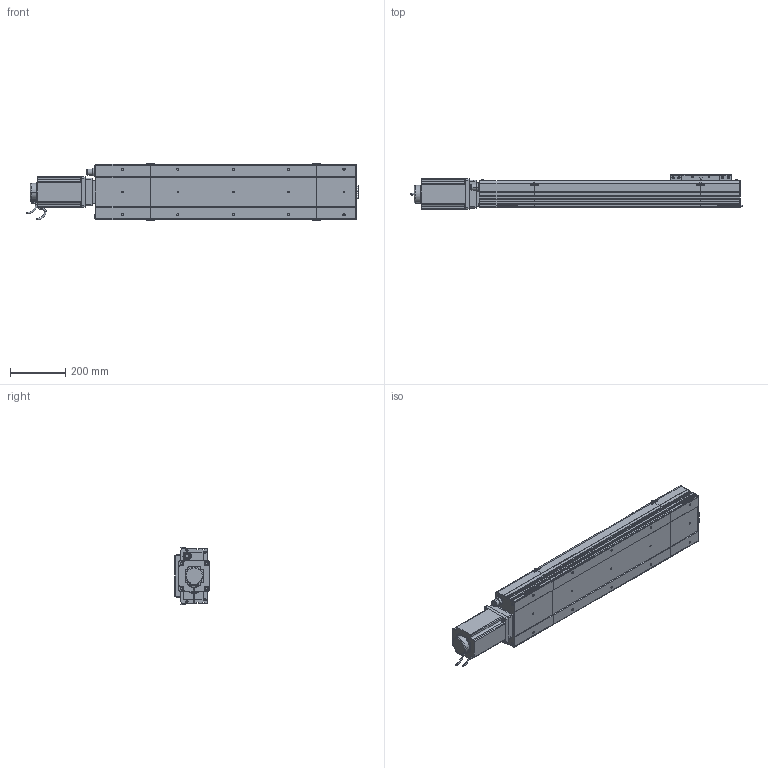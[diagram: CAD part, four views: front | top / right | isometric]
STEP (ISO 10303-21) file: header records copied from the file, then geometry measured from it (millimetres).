
FILE_DESCRIPTION (( 'STEP AP214' ), '1' );
FILE_NAME ('D20 CSH MD S600.STEP', '2010-06-30T08:03:22', ( 'Conseil Régional Haute-Normandie' ), ( 'Conseil Régional Haute-Normandie' ), 'SwSTEP 2.0', 'SolidWorks 2010', '' );
FILE_SCHEMA (( 'AUTOMOTIVE_DESIGN' ));
Length unit declared in the file: millimetre
Products named in the file (28): Corp Head D20_Default; Couvercle Head_Default; Plaque de Bout Head D20_Default; Glissiere_Default; Chariot D20_Default; vis M5 L15_Default; Support Chariot D20_Default; clavette; Conecteur_Default; Conecteur2_Default; Moteur motionking 110BLDC170A-640x; vis M8 L15_Default; Plaque racord D20_Default; avant 110BLDC170A-630x; codeur 110BLDC170A-630x; corps 110BLDC170A-630x; Plaque De Serrage Head D20_Default; Couvercle_Default; Corp Tail D20_Default; Tail D20_Default; D20 CSH MD S600; Corp D20 S600_Default; Plaque De Serrage D20_Default; Plaque de Bout Tail D20_Default; Head D20 MD_Default; Couvercle S600_Default; Corp S600_Default
Assembly tree (53 placements, depth 4):
  D20 CSH MD S600
    Corp D20 S600_Default
      Couvercle S600_Default
      Corp S600_Default
    Head D20 MD_Default
      Plaque de Bout Head D20_Default
      vis M5 L15_Default  x10
      Corp Head D20_Default
      Couvercle Head_Default
      vis M8 L15_Default  x4
      Plaque De Serrage Head D20_Default
      Moteur motionking 110BLDC170A-640x
        codeur 110BLDC170A-630x
        clavette
        Conecteur_Default
        Conecteur2_Default
        avant 110BLDC170A-630x
        corps 110BLDC170A-630x
      Plaque racord D20_Default
    Chariot D20_Default
      vis M5 L15_Default  x8
      Glissiere_Default
      Chariot D20_Default
      Support Chariot D20_Default
    Tail D20_Default
      vis M5 L15_Default  x6
      Plaque de Bout Tail D20_Default
      Plaque De Serrage D20_Default
      Couvercle_Default
      Corp Tail D20_Default
Bounding box: 1199 x 125.5 x 206 mm (x, y, z)
Volume: 8968829.7 mm3; surface area: 1574251.1 mm2
Topology: 90 solids, 90 shells, 3394 faces, 8555 edges, 5589 vertices
Faces by surface type: plane 1935, bspline 758, cylinder 563, torus 79, cone 59
Entity records: 152379 total; most frequent: CARTESIAN_POINT 79259, ORIENTED_EDGE 14506, DIRECTION 10787, EDGE_CURVE 7253, VERTEX_POINT 4809, LINE 4769, VECTOR 4769, EDGE_LOOP 3072
